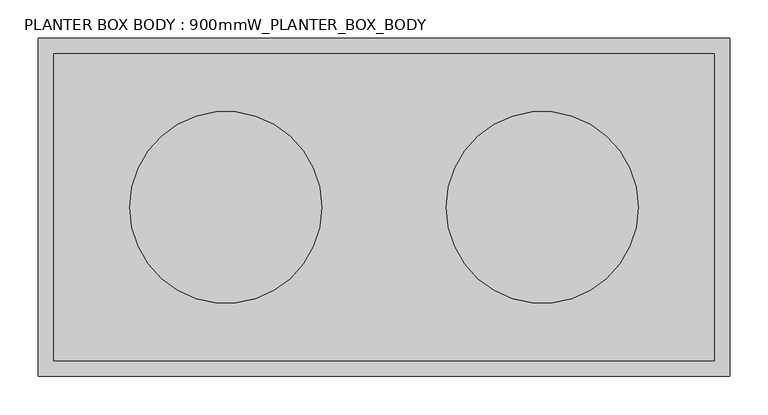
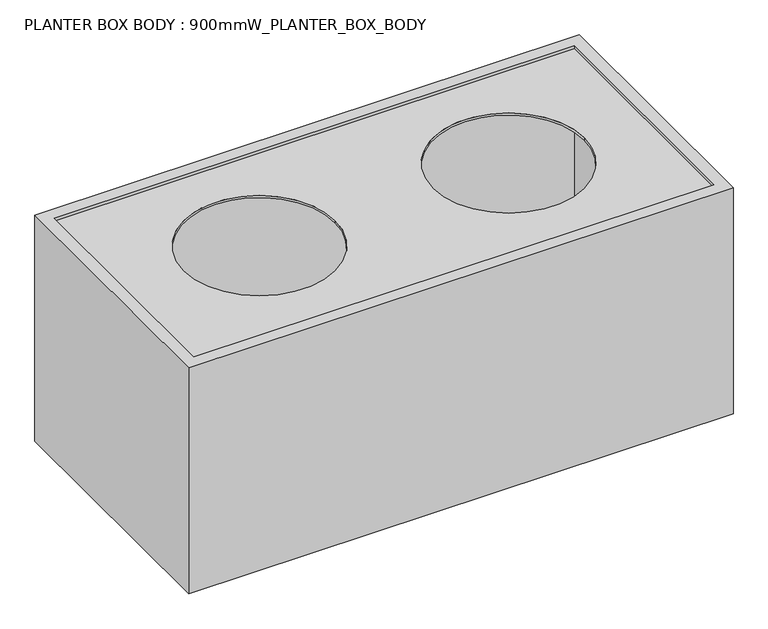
"""IFC4 building model written with IfcOpenShell, lengths in millimetres: furniture geometry, PLANTER BOX BODY : 900mmW_PLANTER_BOX_BODY."""

from ifc_helpers import new_model, si_unit, point, frame, frame_2d, origin, origin_with_axes, place, context, project, spatial, polyline, circle_curve, trimmed, segment, composite_curve, outline, extrude, source, transform, mapped, element, save


def planter_box_body_900mmw_planter_box_body_4539071d(model_context):
    return source(origin(), model_context, "Body", "SweptSolid", [
        extrude(outline(polyline([(430.0, 200.0), (430.0, -200.0), (-430.0, -200.0), (-430.0, 200.0), (430.0, 200.0)])), origin_with_axes(), (0.0, 0.0, 1.0), 15.0),
        extrude(outline(polyline([(430.0, 200.0), (430.0, -200.0), (-430.0, -200.0), (-430.0, 200.0), (430.0, 200.0)]), holes=[composite_curve([segment(trimmed(circle_curve(frame_2d((-206.0, 0.0)), 125.0), [point((-331.0, 0.0))], [point((-81.0, 0.0))], True, "CARTESIAN"), True, "CONTINUOUS"), segment(trimmed(circle_curve(frame_2d((-206.0, 0.0)), 125.0), [point((-81.0, 0.0))], [point((-331.0, 0.0))], True, "CARTESIAN"), True, "CONTINUOUS")], self_intersect=False), composite_curve([segment(trimmed(circle_curve(frame_2d((206.0, 0.0)), 125.0), [point((81.0, 0.0))], [point((331.0, 0.0))], True, "CARTESIAN"), True, "CONTINUOUS"), segment(trimmed(circle_curve(frame_2d((206.0, 0.0)), 125.0), [point((331.0, 0.0))], [point((81.0, 0.0))], True, "CARTESIAN"), True, "CONTINUOUS")], self_intersect=False)]), frame((0.0, 0.0, 386.4363245), z_axis=(0.0, 0.0, 1.0), x_axis=(1.0, 0.0, 0.0)), (0.0, 0.0, 1.0), 3.5636755),
        extrude(outline(polyline([(450.0, 220.0), (450.0, -220.0), (-450.0, -220.0), (-450.0, 220.0), (450.0, 220.0)]), holes=[polyline([(-430.0, 200.0), (-430.0, -200.0), (430.0, -200.0), (430.0, 200.0), (-430.0, 200.0)])]), origin_with_axes(), (0.0, 0.0, 1.0), 395.0),
    ])


if __name__ == "__main__":
    model = new_model("IFC4")
    model_context = context("Model", 3, world=origin())
    ifc_project = project(units=[si_unit("LENGTHUNIT", "METRE", prefix="MILLI")], contexts=[model_context])
    site = spatial("IfcSite", under=ifc_project)
    building = spatial("IfcBuilding", under=site)
    placement = place(None, origin())
    planter_box_body_900mmw_planter_box_body_shape = planter_box_body_900mmw_planter_box_body_4539071d(model_context)
    element("IfcFurniture", 1, ObjectType="PLANTER BOX BODY : 900mmW_PLANTER_BOX_BODY", at=placement, inside=building, context=model_context, shape_type="MappedRepresentation", body=[
        mapped(planter_box_body_900mmw_planter_box_body_shape, transform((0.0, 0.0, 0.0), x_axis=(1.0, 0.0, 0.0), y_axis=(0.0, 1.0, 0.0), z_axis=(0.0, 0.0, 1.0))),
    ])
    save(model, "model.ifc")
